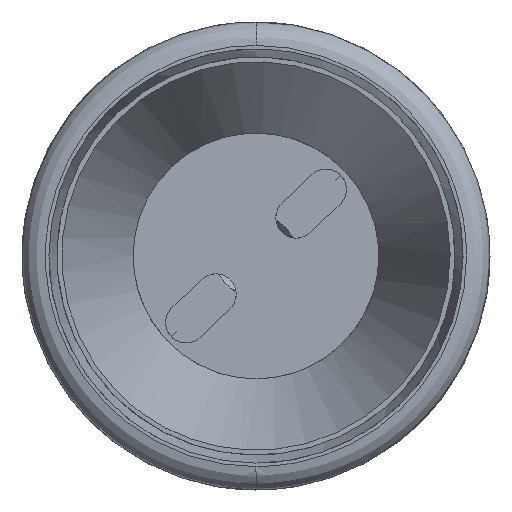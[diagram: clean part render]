
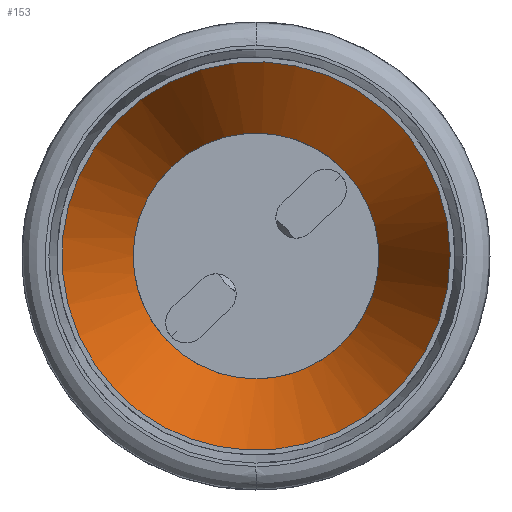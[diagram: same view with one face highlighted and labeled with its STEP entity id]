
A CAD part, front view. The second image highlights one B-rep face of the part: STEP entity #153.
In plain terms, the highlighted free-form (B-spline) face has degree [1, 2] with [2, 9] control points.
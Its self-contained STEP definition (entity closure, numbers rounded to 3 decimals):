
#43=B_SPLINE_CURVE_WITH_KNOTS('',1,(#2646,#2647),.UNSPECIFIED.,.F.,.F.,
(2,2),(26.287,41.558),.UNSPECIFIED.);
#153=ADVANCED_FACE('',(#226),#1395,.T.);
#226=FACE_OUTER_BOUND('',#303,.T.);
#303=EDGE_LOOP('',(#473,#474,#475,#476,#477,#478,#479,#480));
#473=ORIENTED_EDGE('',*,*,#879,.F.);
#474=ORIENTED_EDGE('',*,*,#878,.F.);
#475=ORIENTED_EDGE('',*,*,#885,.T.);
#476=ORIENTED_EDGE('',*,*,#884,.T.);
#477=ORIENTED_EDGE('',*,*,#877,.F.);
#478=ORIENTED_EDGE('',*,*,#879,.T.);
#479=ORIENTED_EDGE('',*,*,#880,.F.);
#480=ORIENTED_EDGE('',*,*,#876,.F.);
#876=EDGE_CURVE('',#1260,#1270,#1087,.T.);
#877=EDGE_CURVE('',#1261,#1262,#1088,.T.);
#878=EDGE_CURVE('',#1263,#1261,#1089,.T.);
#879=EDGE_CURVE('',#1261,#1260,#43,.T.);
#880=EDGE_CURVE('',#1270,#1260,#1090,.T.);
#884=EDGE_CURVE('',#1267,#1262,#1094,.T.);
#885=EDGE_CURVE('',#1263,#1267,#1095,.T.);
#1087=(
BOUNDED_CURVE()
B_SPLINE_CURVE(2,(#2631,#2632,#2633,#2634,#2635,#2636,#2637,#2638,#2639),
 .UNSPECIFIED.,.F.,.F.)
B_SPLINE_CURVE_WITH_KNOTS((3,2,2,2,3),(-104.301,-84.744,
-65.188,-45.632,-26.075),.UNSPECIFIED.)
CURVE()
GEOMETRIC_REPRESENTATION_ITEM()
RATIONAL_B_SPLINE_CURVE((1.,0.831,1.,0.831,1.,0.831,
1.,0.831,1.))
REPRESENTATION_ITEM('')
);
#1088=(
BOUNDED_CURVE()
B_SPLINE_CURVE(2,(#2640,#2641,#2642),.UNSPECIFIED.,.F.,.F.)
B_SPLINE_CURVE_WITH_KNOTS((3,3),(-16.493,0.),.UNSPECIFIED.)
CURVE()
GEOMETRIC_REPRESENTATION_ITEM()
RATIONAL_B_SPLINE_CURVE((1.,0.707,1.))
REPRESENTATION_ITEM('')
);
#1089=(
BOUNDED_CURVE()
B_SPLINE_CURVE(2,(#2643,#2644,#2645),.UNSPECIFIED.,.F.,.F.)
B_SPLINE_CURVE_WITH_KNOTS((3,3),(-32.987,-16.493),
 .UNSPECIFIED.)
CURVE()
GEOMETRIC_REPRESENTATION_ITEM()
RATIONAL_B_SPLINE_CURVE((1.,0.707,1.))
REPRESENTATION_ITEM('')
);
#1090=(
BOUNDED_CURVE()
B_SPLINE_CURVE(2,(#2648,#2649,#2650),.UNSPECIFIED.,.F.,.F.)
B_SPLINE_CURVE_WITH_KNOTS((3,3),(-26.075,0.),.UNSPECIFIED.)
CURVE()
GEOMETRIC_REPRESENTATION_ITEM()
RATIONAL_B_SPLINE_CURVE((1.,0.707,1.))
REPRESENTATION_ITEM('')
);
#1094=(
BOUNDED_CURVE()
B_SPLINE_CURVE(2,(#2662,#2663,#2664),.UNSPECIFIED.,.F.,.F.)
B_SPLINE_CURVE_WITH_KNOTS((3,3),(-16.493,0.),.UNSPECIFIED.)
CURVE()
GEOMETRIC_REPRESENTATION_ITEM()
RATIONAL_B_SPLINE_CURVE((1.,0.707,1.))
REPRESENTATION_ITEM('')
);
#1095=(
BOUNDED_CURVE()
B_SPLINE_CURVE(2,(#2665,#2666,#2667),.UNSPECIFIED.,.F.,.F.)
B_SPLINE_CURVE_WITH_KNOTS((3,3),(-32.987,-16.493),
 .UNSPECIFIED.)
CURVE()
GEOMETRIC_REPRESENTATION_ITEM()
RATIONAL_B_SPLINE_CURVE((1.,0.707,1.))
REPRESENTATION_ITEM('')
);
#1260=VERTEX_POINT('',#2576);
#1261=VERTEX_POINT('',#2577);
#1262=VERTEX_POINT('',#2578);
#1263=VERTEX_POINT('',#2579);
#1267=VERTEX_POINT('',#2583);
#1270=VERTEX_POINT('',#2586);
#1395=(
BOUNDED_SURFACE()
B_SPLINE_SURFACE(1,2,((#2254,#2255,#2256,#2257,#2258,#2259,#2260,#2261,
#2262),(#2263,#2264,#2265,#2266,#2267,#2268,#2269,#2270,#2271)),
 .UNSPECIFIED.,.F.,.F.,.F.)
B_SPLINE_SURFACE_WITH_KNOTS((2,2),(3,2,2,2,3),(0.,45.844),(0.,
1.571,3.142,4.712,6.283),
 .UNSPECIFIED.)
GEOMETRIC_REPRESENTATION_ITEM()
RATIONAL_B_SPLINE_SURFACE(((1.,0.707,1.,0.707,1.,
0.707,1.,0.707,1.),(1.,0.707,1.,0.707,
1.,0.707,1.,0.707,1.)))
REPRESENTATION_ITEM('')
SURFACE()
);
#2254=CARTESIAN_POINT('',(0.,15.098,0.));
#2255=CARTESIAN_POINT('',(0.,15.098,0.));
#2256=CARTESIAN_POINT('',(0.,15.098,0.));
#2257=CARTESIAN_POINT('',(0.,15.098,0.));
#2258=CARTESIAN_POINT('',(0.,15.098,0.));
#2259=CARTESIAN_POINT('',(0.,15.098,0.));
#2260=CARTESIAN_POINT('',(0.,15.098,0.));
#2261=CARTESIAN_POINT('',(0.,15.098,0.));
#2262=CARTESIAN_POINT('',(0.,15.098,0.));
#2263=CARTESIAN_POINT('',(-13.268,-26.93,-12.622));
#2264=CARTESIAN_POINT('',(-0.646,-26.93,-25.889));
#2265=CARTESIAN_POINT('',(12.622,-26.93,-13.268));
#2266=CARTESIAN_POINT('',(25.889,-26.93,-0.646));
#2267=CARTESIAN_POINT('',(13.268,-26.93,12.622));
#2268=CARTESIAN_POINT('',(0.646,-26.93,25.889));
#2269=CARTESIAN_POINT('',(-12.622,-26.93,13.268));
#2270=CARTESIAN_POINT('',(-25.889,-26.93,0.646));
#2271=CARTESIAN_POINT('',(-13.268,-26.93,-12.622));
#2576=CARTESIAN_POINT('',(-12.027,-23.,-11.441));
#2577=CARTESIAN_POINT('',(-7.608,-9.,-7.237));
#2578=CARTESIAN_POINT('',(7.237,-9.,-7.608));
#2579=CARTESIAN_POINT('',(-7.237,-9.,7.608));
#2583=CARTESIAN_POINT('',(7.608,-9.,7.237));
#2586=CARTESIAN_POINT('',(11.441,-23.,-12.027));
#2631=CARTESIAN_POINT('',(-12.027,-23.,-11.441));
#2632=CARTESIAN_POINT('',(-19.672,-23.,-3.405));
#2633=CARTESIAN_POINT('',(-15.173,-23.,6.733));
#2634=CARTESIAN_POINT('',(-10.674,-23.,16.872));
#2635=CARTESIAN_POINT('',(0.414,-23.,16.595));
#2636=CARTESIAN_POINT('',(11.503,-23.,16.318));
#2637=CARTESIAN_POINT('',(15.49,-23.,5.968));
#2638=CARTESIAN_POINT('',(19.478,-23.,-4.382));
#2639=CARTESIAN_POINT('',(11.441,-23.,-12.027));
#2640=CARTESIAN_POINT('',(-7.608,-9.,-7.237));
#2641=CARTESIAN_POINT('',(-0.371,-9.,-14.845));
#2642=CARTESIAN_POINT('',(7.237,-9.,-7.608));
#2643=CARTESIAN_POINT('',(-7.237,-9.,7.608));
#2644=CARTESIAN_POINT('',(-14.845,-9.,0.371));
#2645=CARTESIAN_POINT('',(-7.608,-9.,-7.237));
#2646=CARTESIAN_POINT('',(-7.608,-9.,-7.237));
#2647=CARTESIAN_POINT('',(-12.027,-23.,-11.441));
#2648=CARTESIAN_POINT('',(11.441,-23.,-12.027));
#2649=CARTESIAN_POINT('',(-0.586,-23.,-23.469));
#2650=CARTESIAN_POINT('',(-12.027,-23.,-11.441));
#2662=CARTESIAN_POINT('',(7.608,-9.,7.237));
#2663=CARTESIAN_POINT('',(14.845,-9.,-0.371));
#2664=CARTESIAN_POINT('',(7.237,-9.,-7.608));
#2665=CARTESIAN_POINT('',(-7.237,-9.,7.608));
#2666=CARTESIAN_POINT('',(0.371,-9.,14.845));
#2667=CARTESIAN_POINT('',(7.608,-9.,7.237));
